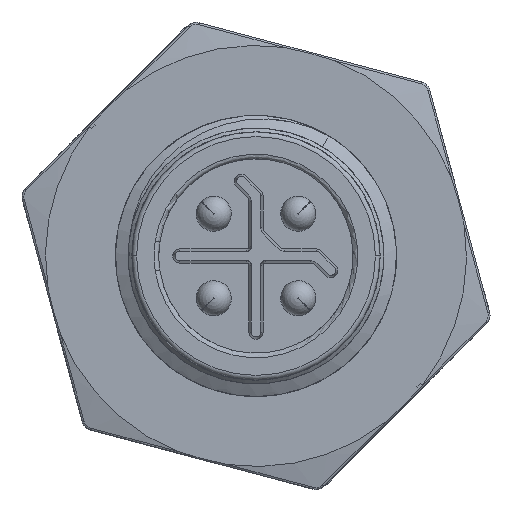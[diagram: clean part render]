
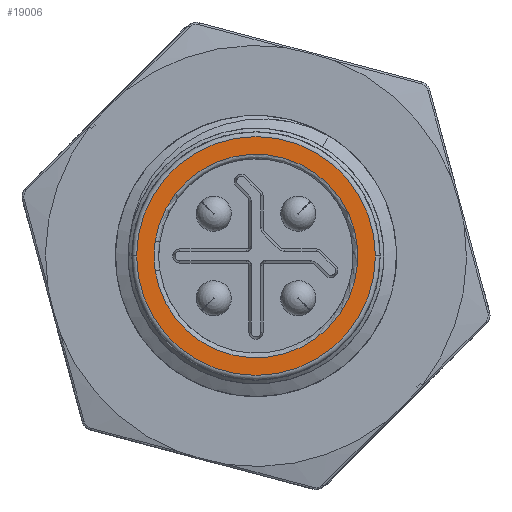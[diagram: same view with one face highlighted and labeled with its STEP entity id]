
A CAD part, left-side view. The second image highlights one B-rep face of the part: STEP entity #19006.
In plain terms, the highlighted planar face has unit normal (-1, 0, 0).
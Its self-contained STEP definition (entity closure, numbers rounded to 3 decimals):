
#43=CARTESIAN_POINT('',(-2.,0.,0.));
#44=DIRECTION('',(1.,0.,0.));
#45=DIRECTION('',(0.,-1.,0.));
#46=AXIS2_PLACEMENT_3D('',#43,#44,#45);
#48=CARTESIAN_POINT('',(-2.,0.,0.));
#49=DIRECTION('',(1.,0.,0.));
#50=DIRECTION('',(0.,1.,0.));
#51=AXIS2_PLACEMENT_3D('',#48,#49,#50);
#53=CARTESIAN_POINT('',(-2.,0.,0.));
#54=DIRECTION('',(-1.,0.,0.));
#55=DIRECTION('',(0.,0.989,0.145));
#56=AXIS2_PLACEMENT_3D('',#53,#54,#55);
#58=CARTESIAN_POINT('',(-2.,0.,0.));
#59=DIRECTION('',(-1.,0.,0.));
#60=DIRECTION('',(0.,0.989,-0.145));
#61=AXIS2_PLACEMENT_3D('',#58,#59,#60);
#17214=CARTESIAN_POINT('',(-2.,-5.1,0.));
#17215=CARTESIAN_POINT('',(-2.,5.1,0.));
#17216=VERTEX_POINT('',#17214);
#17217=VERTEX_POINT('',#17215);
#17218=CARTESIAN_POINT('',(-2.,4.304,0.629));
#17219=CARTESIAN_POINT('',(-2.,4.304,-0.629));
#17220=VERTEX_POINT('',#17218);
#17221=VERTEX_POINT('',#17219);
#18989=CARTESIAN_POINT('',(-2.,0.,0.));
#18990=DIRECTION('',(1.,0.,0.));
#18991=DIRECTION('',(0.,-1.,0.));
#18992=AXIS2_PLACEMENT_3D('',#18989,#18990,#18991);
#18993=PLANE('',#18992);
#18995=ORIENTED_EDGE('',*,*,#18994,.T.);
#18997=ORIENTED_EDGE('',*,*,#18996,.T.);
#18998=EDGE_LOOP('',(#18995,#18997));
#18999=FACE_OUTER_BOUND('',#18998,.F.);
#19001=ORIENTED_EDGE('',*,*,#19000,.T.);
#19003=ORIENTED_EDGE('',*,*,#19002,.T.);
#19004=EDGE_LOOP('',(#19001,#19003));
#19005=FACE_BOUND('',#19004,.F.);
#19006=ADVANCED_FACE('',(#18999,#19005),#18993,.F.);
#47=CIRCLE('',#46,5.1);
#52=CIRCLE('',#51,5.1);
#57=CIRCLE('',#56,4.35);
#62=CIRCLE('',#61,4.35);
#18994=EDGE_CURVE('',#17216,#17217,#47,.T.);
#18996=EDGE_CURVE('',#17217,#17216,#52,.T.);
#19000=EDGE_CURVE('',#17220,#17221,#57,.T.);
#19002=EDGE_CURVE('',#17221,#17220,#62,.T.);
